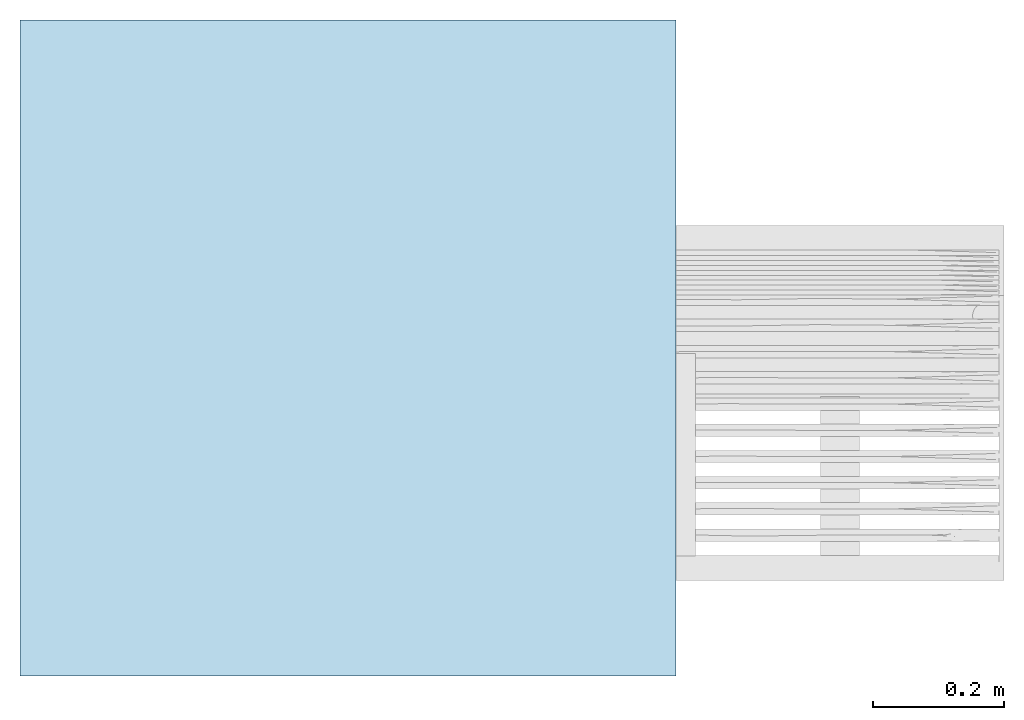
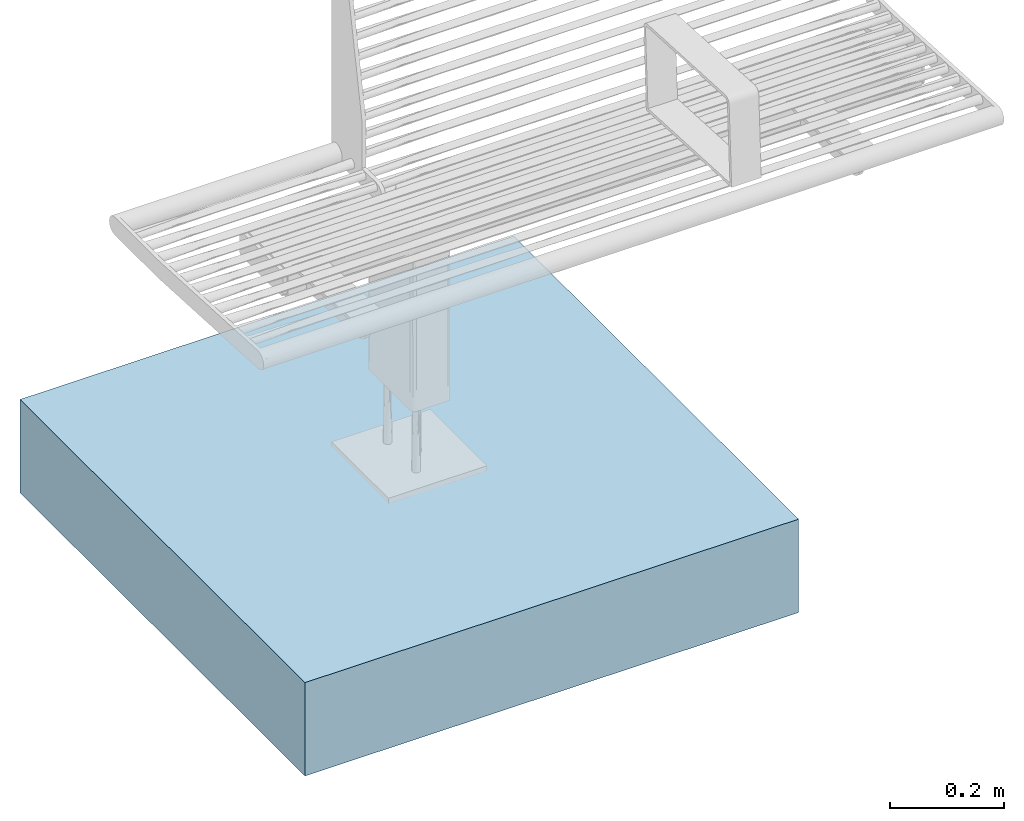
# One storey, incomplete: 1 slab.
"""IFC4 building model written with IfcOpenShell, lengths in metres."""

from ifc_helpers import new_model, entity, si_unit, converted_unit, direction, frame, frame_2d, origin, place, context, subcontext, project, spatial, rectangle, extrude, material, type_object, element, save


model = new_model("IFC4")

# Units and contexts
model_context = context("Model", 3, precision=1e-05, world=origin(), true_north=direction((6.123031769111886e-17, 1.0)))
body_context = subcontext(model_context, "Body", "Model", "MODEL_VIEW")
ifc_project = project(units=[si_unit("LENGTHUNIT", "METRE"), converted_unit("PLANEANGLEUNIT", "DEGREE", entity("IfcPlaneAngleMeasure", 0.017453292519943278), si_unit("PLANEANGLEUNIT", "RADIAN"), dimensions=[0, 0, 0, 0, 0, 0, 0]), si_unit("AREAUNIT", "SQUARE_METRE")], contexts=[model_context])

# Site, building, storey
site_placement = place(None, origin())
site = spatial("IfcSite", under=ifc_project, at=site_placement, Name="Default", CompositionType="ELEMENT")
building_placement = place(site_placement, origin())
building = spatial("IfcBuilding", under=site, at=building_placement, CompositionType="ELEMENT")
storey_placement = place(building_placement, origin())
storey = spatial("IfcBuildingStorey", under=building, at=storey_placement, Name="Ebene 0", CompositionType="ELEMENT", Elevation=0.0)

# Slab
ifc_material = material(Name="DB_Fertigbeton", Category="DB_Beton")
slab_type = type_object("IfcSlabType", Name="DB_Calidum_light_Fundament:DB_Calidum_light_Fundament", PredefinedType="BASESLAB", material=ifc_material)
slab_placement = place(storey_placement, origin())
element("IfcSlab", 1, at=slab_placement, inside=storey, type_object=slab_type, Name="DB_Calidum_light_Fundament:DB_Calidum_light_Fundament", ObjectType="DB_Calidum_light_Fundament:DB_Calidum_light_Fundament", PredefinedType="BASESLAB", context=body_context, shape_type="SweptSolid", body=[
    extrude(rectangle(XDim=0.9999999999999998, YDim=0.9999999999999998, at=frame_2d((-2.7755575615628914e-17, 1.1102230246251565e-16), x_axis=(1.0, 0.0))), frame((-1.0, 0.0, -0.36199999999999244), z_axis=(0.0, 0.0, 1.0), x_axis=(0.0, 1.0, 0.0)), (0.0, 0.0, 1.0), 0.2),
])

save(model, "model.ifc")
